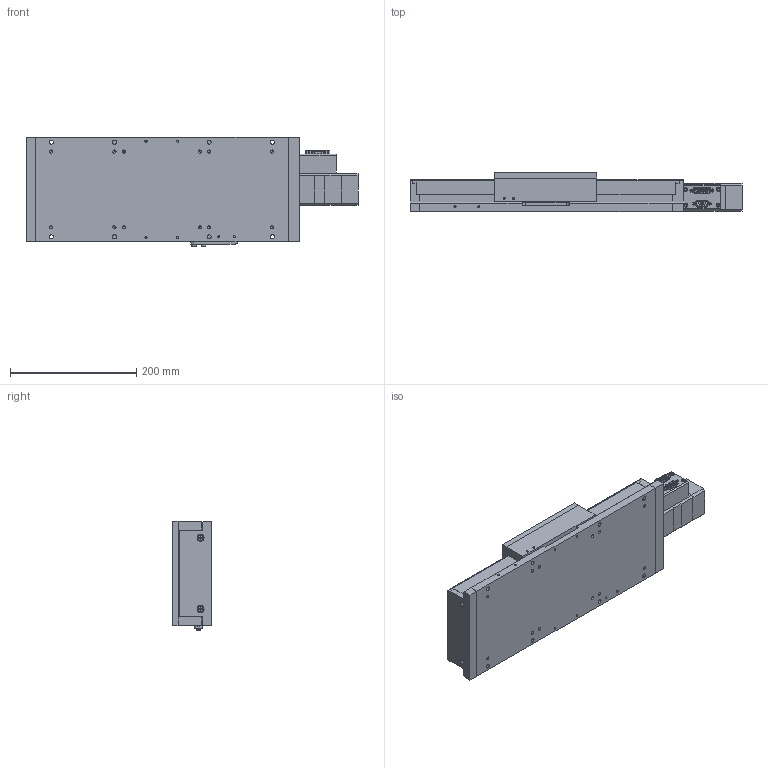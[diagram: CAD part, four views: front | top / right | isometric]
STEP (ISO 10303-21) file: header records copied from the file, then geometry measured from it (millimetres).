
FILE_DESCRIPTION (( 'STEP AP214' ), '1' );
FILE_NAME ('LM3-200-BS-A-H-S-G-EXPORT.STEP', '2024-05-07T14:57:33', ( 'lab' ), ( '' ), 'SwSTEP 2.0', 'SolidWorks 2018', '' );
FILE_SCHEMA (( 'AUTOMOTIVE_DESIGN' ));
Length unit declared in the file: millimetre
Products named in the file (17): 1000015; 1000018; 1000004; 1000014_91290A150; 1000011; LM3-200-BS-A-H-S-G-EXPORT; 1000008; 1000006; 1000005; 1000003_91290A148; 1000012_200; 1000007; 1000009; 1000010; 1000013; 1000001; 1000002
Assembly tree (28 placements, depth 3):
  LM3-200-BS-A-H-S-G-EXPORT
    1000018
      1000004
      1000005
      1000006
      1000007
      1000008
      1000009  x4
      1000010
      1000011
      1000012_200
      1000013
      1000014_91290A150  x8
      1000015
      1000003_91290A148  x2
      1000001  x2
      1000002
Bounding box: 525.6 x 62 x 173 mm (x, y, z)
Volume: 3821660 mm3; surface area: 401753.6 mm2
Topology: 79 solids, 79 shells, 1738 faces, 3974 edges, 2446 vertices
Faces by surface type: plane 903, cylinder 465, cone 200, bspline 170
Entity records: 53027 total; most frequent: CARTESIAN_POINT 13138, DIRECTION 6690, ORIENTED_EDGE 6536, EDGE_CURVE 3268, AXIS2_PLACEMENT_3D 2363, VERTEX_POINT 2083, LINE 1964, VECTOR 1964
